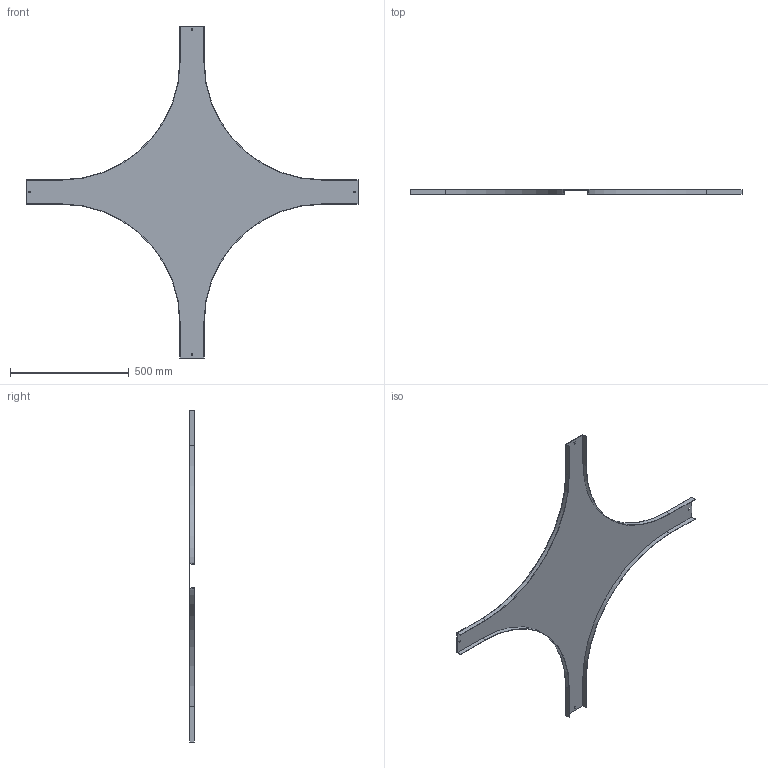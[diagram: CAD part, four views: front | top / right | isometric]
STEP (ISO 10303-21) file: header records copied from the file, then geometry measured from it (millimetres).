
FILE_DESCRIPTION (( 'STEP AP214' ), '1' );
FILE_NAME ('17N5R100.step', '2025-02-21T12:07:29', ( '' ), ( '' ), 'SwSTEP 2.0', 'SolidWorks 2023', '' );
FILE_SCHEMA (( 'AUTOMOTIVE_DESIGN' ));
Length unit declared in the file: millimetre
Products named in the file (1): 17N5R100
Bounding box: 1400 x 20 x 1400 mm (x, y, z)
Volume: 856658.2 mm3; surface area: 1149735.1 mm2
Topology: 1 solids, 1 shells, 50 faces, 144 edges, 96 vertices
Faces by surface type: plane 42, cylinder 8
Entity records: 1663 total; most frequent: CARTESIAN_POINT 291, ORIENTED_EDGE 288, DIRECTION 262, EDGE_CURVE 144, LINE 128, VECTOR 128, VERTEX_POINT 96, AXIS2_PLACEMENT_3D 67
